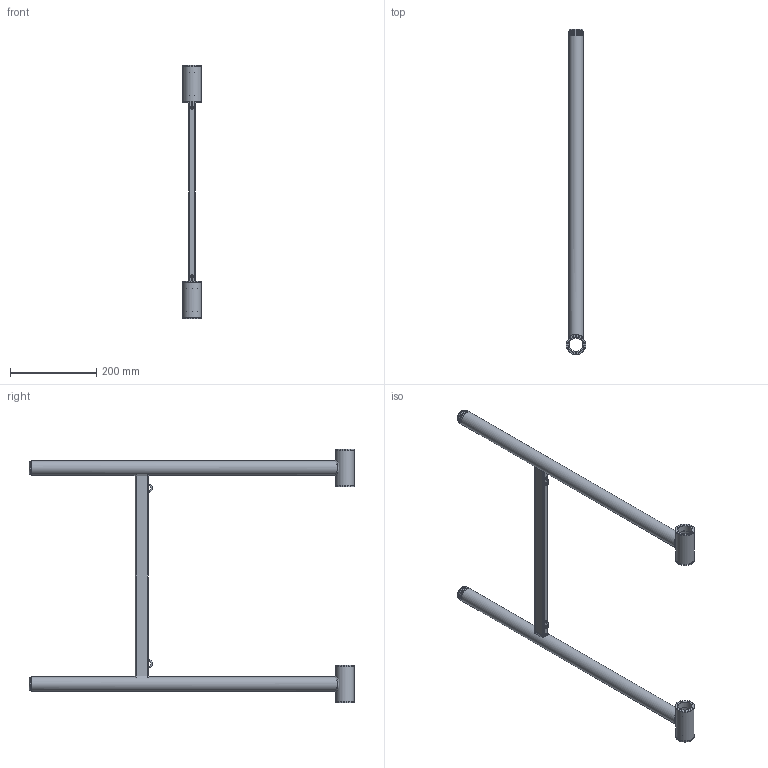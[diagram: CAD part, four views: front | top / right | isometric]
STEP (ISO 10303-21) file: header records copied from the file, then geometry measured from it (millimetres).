
FILE_DESCRIPTION(/* description */ (''),/* implementation_level */ '2;1');
FILE_NAME(/* name */ 'D:\VDV Techniek\Documents\Inventor\_ISP_Products\Narrow Walkway SS Gate\IGS-STP\Small SS Gate.stp',/* time_stamp */ '2024-12-15T18:41:28+01:00',/* author */ ('jos'),/* organization */ (''),/* preprocessor_version */ 'ST-DEVELOPER v15.2',/* originating_system */ 'Autodesk Inventor 2014',/* authorisation */ '');
FILE_SCHEMA (('AUTOMOTIVE_DESIGN { 1 0 10303 214 3 1 1 }'));
Length unit declared in the file: millimetre
Products named in the file (9): Small SS Gate Weldment_Welds; Tube SS 42,4mm; Tube SS 33,7mm; DIN EN 10305-5 - 30 x 15 x 1,5  - 477; Hook; Small SS Gate Weldment; Bushing; Endstop; Small SS Gate
Assembly tree (15 placements, depth 3):
  Small SS Gate
    Small SS Gate Weldment
      Small SS Gate Weldment_Welds
      Tube SS 42,4mm  x2
      Tube SS 33,7mm  x2
      DIN EN 10305-5 - 30 x 15 x 1,5  - 477
      Hook  x2
    Bushing  x4
    Endstop  x2
Bounding box: 45 x 752.5 x 586 mm (x, y, z)
Volume: 497368.4 mm3; surface area: 433277.7 mm2
Topology: 21 solids, 21 shells, 192 faces, 398 edges, 254 vertices
Faces by surface type: plane 78, cylinder 66, bspline 36, torus 8, cone 4
Full cylindrical faces by diameter (mm): 19.5 x2, 21.5 x8, 28.5 x2, 30.5 x6, 32 x2, 32.4 x4, 33.7 x4, 36.3 x4, 37.2 x2, 42.4 x2, 45 x4
Entity records: 8695 total; most frequent: CARTESIAN_POINT 5585, DIRECTION 574, ORIENTED_EDGE 566, EDGE_CURVE 283, AXIS2_PLACEMENT_3D 225, VERTEX_POINT 191, EDGE_LOOP 184, ADVANCED_FACE 140
